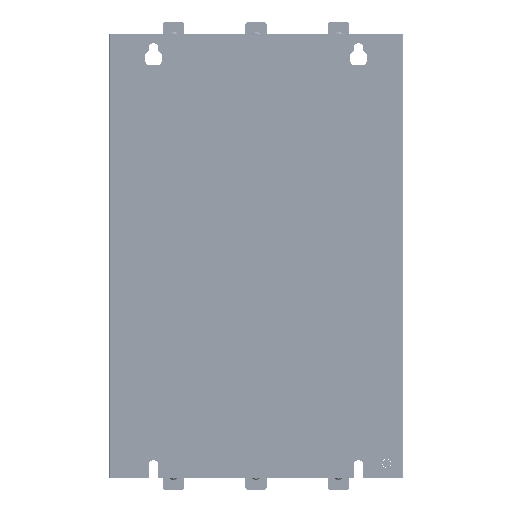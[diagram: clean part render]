
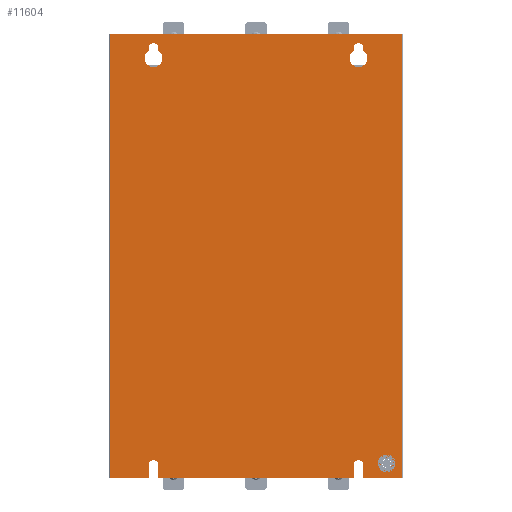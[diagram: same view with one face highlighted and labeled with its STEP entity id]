
A CAD part, front view. The second image highlights one B-rep face of the part: STEP entity #11604.
In plain terms, the highlighted planar face has unit normal (0, -1, 0).
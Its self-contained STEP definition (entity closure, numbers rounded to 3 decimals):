
#1926=DIRECTION('',(0.,0.,-1.));
#1927=VECTOR('',#1926,8.7);
#1928=CARTESIAN_POINT('',(75.5,0.,-147.));
#1929=LINE('',#1928,#1927);
#1930=DIRECTION('',(0.,0.,-1.));
#1931=VECTOR('',#1930,8.7);
#1932=CARTESIAN_POINT('',(-75.5,0.,-147.));
#1933=LINE('',#1932,#1931);
#1934=DIRECTION('',(-1.,0.,0.));
#1935=VECTOR('',#1934,26.8);
#1936=CARTESIAN_POINT('',(-75.5,0.,-155.7));
#1937=LINE('',#1936,#1935);
#1938=DIRECTION('',(-1.,0.,0.));
#1939=VECTOR('',#1938,26.8);
#1940=CARTESIAN_POINT('',(102.3,0.,-155.7));
#1941=LINE('',#1940,#1939);
#1942=CARTESIAN_POINT('',(72.,0.,-147.));
#1943=DIRECTION('',(0.,-1.,0.));
#1944=DIRECTION('',(1.,0.,0.));
#1945=AXIS2_PLACEMENT_3D('',#1942,#1943,#1944);
#1947=DIRECTION('',(0.,0.,-1.));
#1948=VECTOR('',#1947,8.7);
#1949=CARTESIAN_POINT('',(68.5,0.,-147.));
#1950=LINE('',#1949,#1948);
#1951=DIRECTION('',(-1.,0.,0.));
#1952=VECTOR('',#1951,137.);
#1953=CARTESIAN_POINT('',(68.5,0.,-155.7));
#1954=LINE('',#1953,#1952);
#1955=CARTESIAN_POINT('',(-72.,0.,-147.));
#1956=DIRECTION('',(0.,-1.,0.));
#1957=DIRECTION('',(1.,0.,0.));
#1958=AXIS2_PLACEMENT_3D('',#1955,#1956,#1957);
#1960=CARTESIAN_POINT('',(-72.,0.,139.));
#1961=DIRECTION('',(0.,-1.,0.));
#1962=DIRECTION('',(-0.56,0.,0.828));
#1963=AXIS2_PLACEMENT_3D('',#1960,#1961,#1962);
#1965=CARTESIAN_POINT('',(-72.,0.,139.));
#1966=DIRECTION('',(0.,-1.,0.));
#1967=DIRECTION('',(-1.,0.,0.));
#1968=AXIS2_PLACEMENT_3D('',#1965,#1966,#1967);
#1970=CARTESIAN_POINT('',(-72.,0.,139.));
#1971=DIRECTION('',(0.,-1.,0.));
#1972=DIRECTION('',(1.,0.,0.));
#1973=AXIS2_PLACEMENT_3D('',#1970,#1971,#1972);
#1975=CARTESIAN_POINT('',(-72.,0.,146.));
#1976=DIRECTION('',(0.,-1.,0.));
#1977=DIRECTION('',(1.,0.,0.));
#1978=AXIS2_PLACEMENT_3D('',#1975,#1976,#1977);
#1980=CARTESIAN_POINT('',(72.,0.,139.));
#1981=DIRECTION('',(0.,-1.,0.));
#1982=DIRECTION('',(-0.56,0.,0.828));
#1983=AXIS2_PLACEMENT_3D('',#1980,#1981,#1982);
#1985=CARTESIAN_POINT('',(72.,0.,139.));
#1986=DIRECTION('',(0.,-1.,0.));
#1987=DIRECTION('',(-1.,0.,0.));
#1988=AXIS2_PLACEMENT_3D('',#1985,#1986,#1987);
#1990=CARTESIAN_POINT('',(72.,0.,139.));
#1991=DIRECTION('',(0.,-1.,0.));
#1992=DIRECTION('',(1.,0.,0.));
#1993=AXIS2_PLACEMENT_3D('',#1990,#1991,#1992);
#1995=CARTESIAN_POINT('',(72.,0.,146.));
#1996=DIRECTION('',(0.,-1.,0.));
#1997=DIRECTION('',(1.,0.,0.));
#1998=AXIS2_PLACEMENT_3D('',#1995,#1996,#1997);
#2000=CARTESIAN_POINT('',(91.8,0.,-145.7));
#2001=DIRECTION('',(0.,-1.,0.));
#2002=DIRECTION('',(-1.,0.,0.));
#2003=AXIS2_PLACEMENT_3D('',#2000,#2001,#2002);
#2005=CARTESIAN_POINT('',(91.8,0.,-145.7));
#2006=DIRECTION('',(0.,-1.,0.));
#2007=DIRECTION('',(1.,0.,0.));
#2008=AXIS2_PLACEMENT_3D('',#2005,#2006,#2007);
#2026=DIRECTION('',(0.,0.,-1.));
#2027=VECTOR('',#2026,8.7);
#2028=CARTESIAN_POINT('',(-68.5,0.,-147.));
#2029=LINE('',#2028,#2027);
#3282=DIRECTION('',(-1.,0.,0.));
#3283=VECTOR('',#3282,204.6);
#3284=CARTESIAN_POINT('',(102.3,0.,155.7));
#3285=LINE('',#3284,#3283);
#4835=DIRECTION('',(0.,0.,1.));
#4836=VECTOR('',#4835,311.4);
#4837=CARTESIAN_POINT('',(102.3,0.,-155.7));
#4838=LINE('',#4837,#4836);
#5911=DIRECTION('',(0.,0.,-1.));
#5912=VECTOR('',#5911,311.4);
#5913=CARTESIAN_POINT('',(-102.3,0.,155.7));
#5914=LINE('',#5913,#5912);
#7167=DIRECTION('',(0.,0.,1.));
#7168=VECTOR('',#7167,1.822);
#7169=CARTESIAN_POINT('',(-75.5,0.,144.178));
#7170=LINE('',#7169,#7168);
#7179=DIRECTION('',(0.,0.,-1.));
#7180=VECTOR('',#7179,1.822);
#7181=CARTESIAN_POINT('',(-68.5,0.,146.));
#7182=LINE('',#7181,#7180);
#7191=DIRECTION('',(0.,0.,1.));
#7192=VECTOR('',#7191,1.822);
#7193=CARTESIAN_POINT('',(68.5,0.,144.178));
#7194=LINE('',#7193,#7192);
#7203=DIRECTION('',(0.,0.,-1.));
#7204=VECTOR('',#7203,1.822);
#7205=CARTESIAN_POINT('',(75.5,0.,146.));
#7206=LINE('',#7205,#7204);
#8569=CARTESIAN_POINT('',(-102.3,0.,-155.7));
#8570=VERTEX_POINT('',#8569);
#8571=CARTESIAN_POINT('',(-75.5,0.,-155.7));
#8572=VERTEX_POINT('',#8571);
#8573=CARTESIAN_POINT('',(-68.5,0.,-155.7));
#8574=VERTEX_POINT('',#8573);
#8575=CARTESIAN_POINT('',(68.5,0.,-155.7));
#8576=VERTEX_POINT('',#8575);
#8577=CARTESIAN_POINT('',(75.5,0.,-155.7));
#8578=VERTEX_POINT('',#8577);
#8579=CARTESIAN_POINT('',(102.3,0.,-155.7));
#8580=VERTEX_POINT('',#8579);
#9045=CARTESIAN_POINT('',(102.3,0.,155.7));
#9046=VERTEX_POINT('',#9045);
#9047=CARTESIAN_POINT('',(-102.3,0.,155.7));
#9048=VERTEX_POINT('',#9047);
#9637=CARTESIAN_POINT('',(-75.5,0.,-147.));
#9638=VERTEX_POINT('',#9637);
#9639=CARTESIAN_POINT('',(75.5,0.,-147.));
#9640=VERTEX_POINT('',#9639);
#9641=CARTESIAN_POINT('',(68.5,0.,-147.));
#9642=VERTEX_POINT('',#9641);
#9643=CARTESIAN_POINT('',(-68.5,0.,-147.));
#9644=VERTEX_POINT('',#9643);
#9645=CARTESIAN_POINT('',(-65.75,0.,139.));
#9646=CARTESIAN_POINT('',(-68.5,0.,144.178));
#9647=VERTEX_POINT('',#9645);
#9648=VERTEX_POINT('',#9646);
#9649=CARTESIAN_POINT('',(-78.25,0.,139.));
#9650=VERTEX_POINT('',#9649);
#9651=CARTESIAN_POINT('',(-75.5,0.,144.178));
#9652=VERTEX_POINT('',#9651);
#9653=CARTESIAN_POINT('',(-68.5,0.,146.));
#9654=VERTEX_POINT('',#9653);
#9655=CARTESIAN_POINT('',(-75.5,0.,146.));
#9656=VERTEX_POINT('',#9655);
#9657=CARTESIAN_POINT('',(78.25,0.,139.));
#9658=CARTESIAN_POINT('',(75.5,0.,144.178));
#9659=VERTEX_POINT('',#9657);
#9660=VERTEX_POINT('',#9658);
#9661=CARTESIAN_POINT('',(65.75,0.,139.));
#9662=VERTEX_POINT('',#9661);
#9663=CARTESIAN_POINT('',(68.5,0.,144.178));
#9664=VERTEX_POINT('',#9663);
#9665=CARTESIAN_POINT('',(75.5,0.,146.));
#9666=VERTEX_POINT('',#9665);
#9667=CARTESIAN_POINT('',(68.5,0.,146.));
#9668=VERTEX_POINT('',#9667);
#9669=CARTESIAN_POINT('',(87.8,0.,-145.7));
#9670=CARTESIAN_POINT('',(95.8,0.,-145.7));
#9671=VERTEX_POINT('',#9669);
#9672=VERTEX_POINT('',#9670);
#11541=CARTESIAN_POINT('',(-103.5,0.,-167.));
#11542=DIRECTION('',(0.,-1.,0.));
#11543=DIRECTION('',(1.,0.,0.));
#11544=AXIS2_PLACEMENT_3D('',#11541,#11542,#11543);
#11545=PLANE('',#11544);
#11547=ORIENTED_EDGE('',*,*,#11546,.T.);
#11549=ORIENTED_EDGE('',*,*,#11548,.T.);
#11551=ORIENTED_EDGE('',*,*,#11550,.F.);
#11553=ORIENTED_EDGE('',*,*,#11552,.F.);
#11555=ORIENTED_EDGE('',*,*,#11554,.F.);
#11556=ORIENTED_EDGE('',*,*,#11515,.T.);
#11557=ORIENTED_EDGE('',*,*,#11532,.F.);
#11559=ORIENTED_EDGE('',*,*,#11558,.T.);
#11561=ORIENTED_EDGE('',*,*,#11560,.T.);
#11563=ORIENTED_EDGE('',*,*,#11562,.T.);
#11565=ORIENTED_EDGE('',*,*,#11564,.F.);
#11567=ORIENTED_EDGE('',*,*,#11566,.T.);
#11568=EDGE_LOOP('',(#11547,#11549,#11551,#11553,#11555,#11556,#11557,#11559,
#11561,#11563,#11565,#11567));
#11569=FACE_OUTER_BOUND('',#11568,.F.);
#11571=ORIENTED_EDGE('',*,*,#11570,.T.);
#11573=ORIENTED_EDGE('',*,*,#11572,.T.);
#11575=ORIENTED_EDGE('',*,*,#11574,.T.);
#11577=ORIENTED_EDGE('',*,*,#11576,.F.);
#11579=ORIENTED_EDGE('',*,*,#11578,.T.);
#11581=ORIENTED_EDGE('',*,*,#11580,.F.);
#11582=EDGE_LOOP('',(#11571,#11573,#11575,#11577,#11579,#11581));
#11583=FACE_BOUND('',#11582,.F.);
#11585=ORIENTED_EDGE('',*,*,#11584,.T.);
#11587=ORIENTED_EDGE('',*,*,#11586,.T.);
#11589=ORIENTED_EDGE('',*,*,#11588,.T.);
#11591=ORIENTED_EDGE('',*,*,#11590,.F.);
#11593=ORIENTED_EDGE('',*,*,#11592,.T.);
#11595=ORIENTED_EDGE('',*,*,#11594,.F.);
#11596=EDGE_LOOP('',(#11585,#11587,#11589,#11591,#11593,#11595));
#11597=FACE_BOUND('',#11596,.F.);
#11599=ORIENTED_EDGE('',*,*,#11598,.T.);
#11601=ORIENTED_EDGE('',*,*,#11600,.T.);
#11602=EDGE_LOOP('',(#11599,#11601));
#11603=FACE_BOUND('',#11602,.F.);
#11604=ADVANCED_FACE('',(#11569,#11583,#11597,#11603),#11545,.T.);
#1946=CIRCLE('',#1945,3.5);
#1959=CIRCLE('',#1958,3.5);
#1964=CIRCLE('',#1963,6.25);
#1969=CIRCLE('',#1968,6.25);
#1974=CIRCLE('',#1973,6.25);
#1979=CIRCLE('',#1978,3.5);
#1984=CIRCLE('',#1983,6.25);
#1989=CIRCLE('',#1988,6.25);
#1994=CIRCLE('',#1993,6.25);
#1999=CIRCLE('',#1998,3.5);
#2004=CIRCLE('',#2003,4.);
#2009=CIRCLE('',#2008,4.);
#11515=EDGE_CURVE('',#8580,#8578,#1941,.T.);
#11532=EDGE_CURVE('',#9640,#8578,#1929,.T.);
#11546=EDGE_CURVE('',#9638,#8572,#1933,.T.);
#11548=EDGE_CURVE('',#8572,#8570,#1937,.T.);
#11550=EDGE_CURVE('',#9048,#8570,#5914,.T.);
#11552=EDGE_CURVE('',#9046,#9048,#3285,.T.);
#11554=EDGE_CURVE('',#8580,#9046,#4838,.T.);
#11558=EDGE_CURVE('',#9640,#9642,#1946,.T.);
#11560=EDGE_CURVE('',#9642,#8576,#1950,.T.);
#11562=EDGE_CURVE('',#8576,#8574,#1954,.T.);
#11564=EDGE_CURVE('',#9644,#8574,#2029,.T.);
#11566=EDGE_CURVE('',#9644,#9638,#1959,.T.);
#11570=EDGE_CURVE('',#9652,#9650,#1964,.T.);
#11572=EDGE_CURVE('',#9650,#9647,#1969,.T.);
#11574=EDGE_CURVE('',#9647,#9648,#1974,.T.);
#11576=EDGE_CURVE('',#9654,#9648,#7182,.T.);
#11578=EDGE_CURVE('',#9654,#9656,#1979,.T.);
#11580=EDGE_CURVE('',#9652,#9656,#7170,.T.);
#11584=EDGE_CURVE('',#9664,#9662,#1984,.T.);
#11586=EDGE_CURVE('',#9662,#9659,#1989,.T.);
#11588=EDGE_CURVE('',#9659,#9660,#1994,.T.);
#11590=EDGE_CURVE('',#9666,#9660,#7206,.T.);
#11592=EDGE_CURVE('',#9666,#9668,#1999,.T.);
#11594=EDGE_CURVE('',#9664,#9668,#7194,.T.);
#11598=EDGE_CURVE('',#9671,#9672,#2004,.T.);
#11600=EDGE_CURVE('',#9672,#9671,#2009,.T.);
